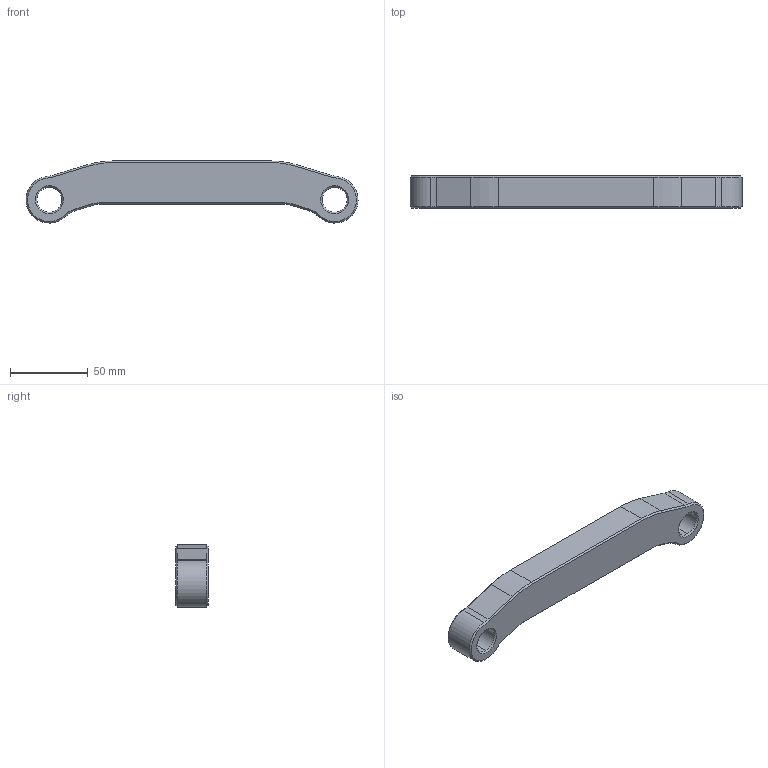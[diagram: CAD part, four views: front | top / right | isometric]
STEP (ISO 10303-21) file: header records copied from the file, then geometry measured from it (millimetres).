
FILE_DESCRIPTION (( 'STEP AP203' ), '1' );
FILE_NAME ('YYDK-500-0014 藷蒛蟀裝(500T).STEP', '2026-03-14T06:06:43', ( 'Windows 蚚誧' ), ( '' ), 'SwSTEP 2.0', 'SolidWorks 2020', '' );
FILE_SCHEMA (( 'CONFIG_CONTROL_DESIGN' ));
Length unit declared in the file: millimetre
Products named in the file (1): YYDK-500-0014 藷蒛蟀裝(500T)
Bounding box: 213.46 x 21 x 40 mm (x, y, z)
Volume: 113938.3 mm3; surface area: 22211.6 mm2
Topology: 1 solids, 1 shells, 66 faces, 150 edges, 86 vertices
Faces by surface type: cone 30, plane 20, cylinder 16
Entity records: 1905 total; most frequent: DIRECTION 346, CARTESIAN_POINT 303, ORIENTED_EDGE 300, EDGE_CURVE 150, AXIS2_PLACEMENT_3D 129, VECTOR 88, LINE 88, VERTEX_POINT 86
